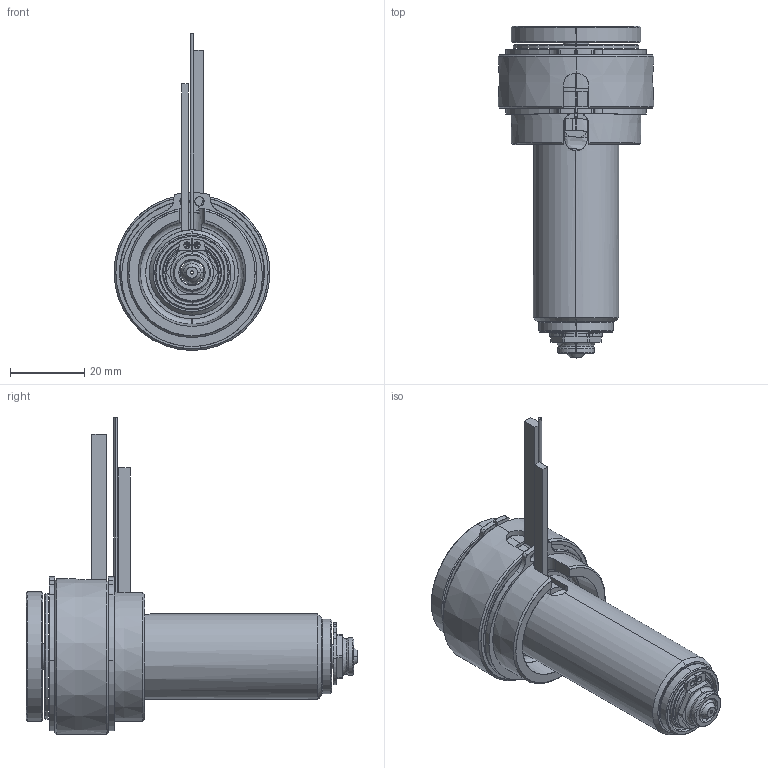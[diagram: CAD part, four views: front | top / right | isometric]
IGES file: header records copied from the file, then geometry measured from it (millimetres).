
Start section: SolidWorks IGES file using analytic representation for surfaces
Global section: file name: C:\Documents and Settings\ws-20\Desktop\TEM\UGER3551-S-A-0 [Øb-0.90  ØC-7.0].IGS; native system: SolidWorks 2012; preprocessor: SolidWorks 2012; author: ws-20; date: 120410.100247; units: millimetre
Bounding box: 42 x 89.4 x 85.4 mm (x, y, z)
Surface area: 31296.8 mm2 (no closed solid volume)
Topology: 0 solids, 0 shells, 207 faces, 3634 edges, 3634 vertices
Faces by surface type: revolution 132, bspline 75
